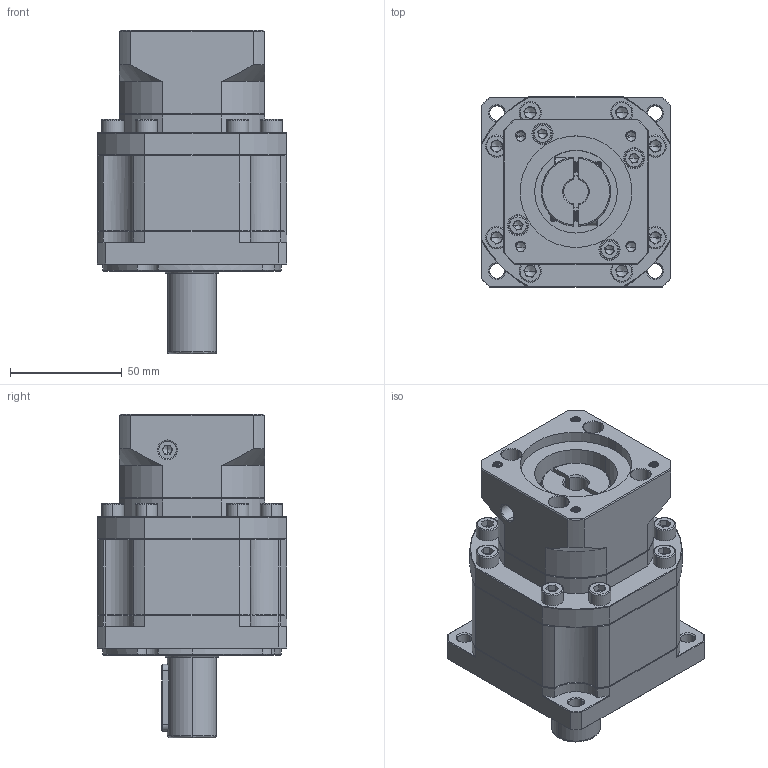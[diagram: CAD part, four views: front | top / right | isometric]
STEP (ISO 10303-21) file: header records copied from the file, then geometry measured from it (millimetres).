
FILE_DESCRIPTION (( 'STEP AP214' ), '1' );
FILE_NAME ('ZB090-D22-L2-P2-11-50-70-M5.step', '2023-08-18T13:35:58', ( '' ), ( '' ), 'SwSTEP 2.0', 'SolidWorks 2016', '' );
FILE_SCHEMA (( 'AUTOMOTIVE_DESIGN' ));
Length unit declared in the file: millimetre
Products named in the file (1): ZB090-D22-L2-P2-11-50-70-M5
Bounding box: 85 x 85 x 145 mm (x, y, z)
Volume: 545321.8 mm3; surface area: 77086.9 mm2
Topology: 6 solids, 6 shells, 2360 faces, 6273 edges, 4009 vertices
Faces by surface type: plane 1185, bspline 426, cylinder 406, cone 321, torus 22
Entity records: 125998 total; most frequent: CARTESIAN_POINT 44730, ORIENTED_EDGE 12454, DIRECTION 9932, EDGE_CURVE 6227, VERTEX_POINT 4009, LINE 3948, VECTOR 3948, AXIS2_PLACEMENT_3D 2992
